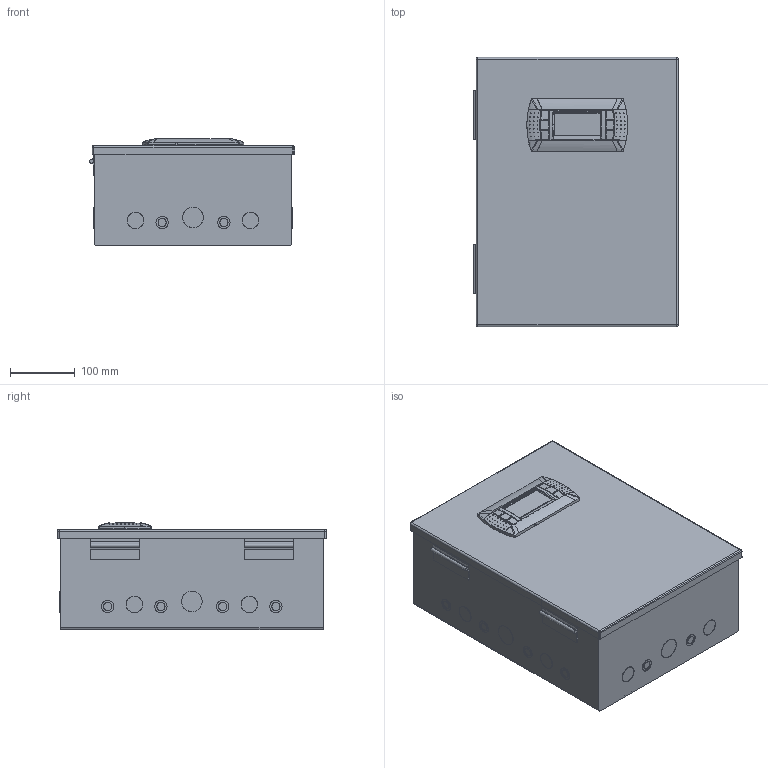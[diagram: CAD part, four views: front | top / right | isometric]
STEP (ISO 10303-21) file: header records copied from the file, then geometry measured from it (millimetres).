
FILE_DESCRIPTION (( 'STEP AP214' ), '1' );
FILE_NAME ('LC_Controllers.STEP', '2016-07-13T14:17:16', ( 'BMC' ), ( 'Bard Manufacturing Co., Inc.' ), 'SwSTEP 2.0', 'SolidWorks 2016', '' );
FILE_SCHEMA (( 'AUTOMOTIVE_DESIGN' ));
Length unit declared in the file: inch
Products named in the file (2): LC_Controllers; LC1000-100
Assembly tree (1 placements, depth 2):
  LC_Controllers
    LC1000-100
Bounding box: 317.09 x 416.2 x 165.48 mm (x, y, z)
Surface area: 969798 mm2 (no closed solid volume)
Topology: 0 solids, 352 shells, 357 faces, 1776 edges, 1756 vertices
Faces by surface type: cylinder 137, plane 103, bspline 79, torus 19, cone 18, sphere 1
Entity records: 51733 total; most frequent: CARTESIAN_POINT 39502, DIRECTION 1929, ORIENTED_EDGE 1765, EDGE_CURVE 1760, VERTEX_POINT 1755, B_SPLINE_CURVE_WITH_KNOTS 762, AXIS2_PLACEMENT_3D 663, VECTOR 603
